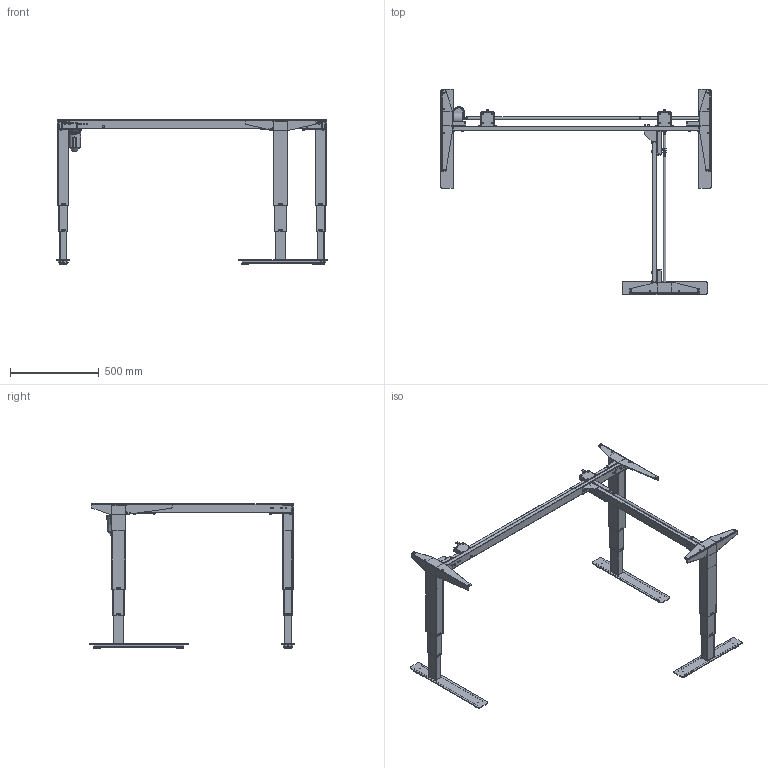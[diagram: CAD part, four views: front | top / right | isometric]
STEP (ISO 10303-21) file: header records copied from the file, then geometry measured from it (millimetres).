
FILE_DESCRIPTION (( 'STEP AP203' ), '1' );
FILE_NAME ('Tech-draw_501-37_XX152-114A.STEP', '2019-09-25T11:49:06', ( '' ), ( '' ), 'SwSTEP 2.0', 'SolidWorks 2018', '' );
FILE_SCHEMA (( 'CONFIG_CONTROL_DESIGN' ));
Length unit declared in the file: millimetre
Products named in the file (56): 138760_black; 344850; 349820; 344910; 147220_black; 138780_black; 350040; 134950_black1; 347910_92; 341170_shell view; 348990; 134920_black1; 345230_152; 341120; 340540_shell view; 344840_shell view; 344430_black; 344070_shell view; 347920_92; 138800_black1; 140320_152; 341800_black; 349810; 344250_152; 352610; 340580; 138750_black; 348720_shell view; 140140_152 shell view; 147540; 341180_shell view; 147240_black1; 140330_152; 344080; 341130; 332570; 144260_92; 341150_shell view; 340760; 147230_black1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
Assembly tree (113 placements, depth 6):
  Tech-draw_501-37_XX152-114A
    149250_501-37 XB152-114A
      140140_152 shell view
        140330_152
          345230_152
          340580  x2
        140320_152
          138920_152
            344250_152
            340560
            341220
        140150_shell view  x2
          344910
      138760_black
        148070_black1
          341130
          341180_shell view
          348720_shell view
        138780_black
          138800_black1
            341150_shell view
            344070_shell view
            344080
          134950_black1
            341140_shell view
          341800_black  x4
        341800_black  x4
        324520_black  x2
        344430_black
        352610
      138750_black
        134920_black1
          341120
          341170_shell view
          340540_shell view
        138770_black
          138790_black1
            341150_shell view
            344070_shell view
            344080
          134950_black1
            341140_shell view
          341800_black  x4
        341800_black  x4
        324520_black  x2
      147210_black
        147230_black1
          341120
          344860_shell view
          340540_shell view
        147220_black
          147240_black1
            341150_shell view
            344840_shell view
            344850
          134950_black1
            341140_shell view
          341800_black  x4
        341800_black  x4
        324520_black  x2
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Bounding box: 1529 x 1158.6 x 817 mm (x, y, z)
Volume: 4182864.3 mm3; surface area: 3920948.1 mm2
Topology: 90 solids, 90 shells, 5701 faces, 14767 edges, 9341 vertices
Faces by surface type: plane 3249, cylinder 1813, bspline 309, cone 208, torus 122
Full cylindrical faces by diameter (mm): 2.8 x6, 3 x6, 3.5 x1, 4.5 x9, 4.6 x6, 5 x20, 5.5 x2, 6 x22, 6.2 x4, 6.5 x8, 7 x18, 7.5 x2, 7.6 x6, 8 x29, 10 x18, 11.9 x6, 12 x3, 13 x6, 14.3 x4, 15 x6, 16 x4, 17 x1, 18 x3, 20 x2, 37.6 x12, 60 x1
Entity records: 104612 total; most frequent: CARTESIAN_POINT 39949, ORIENTED_EDGE 11986, DIRECTION 11496, EDGE_CURVE 5993, AXIS2_PLACEMENT_3D 4086, VERTEX_POINT 3891, LINE 3324, VECTOR 3324
